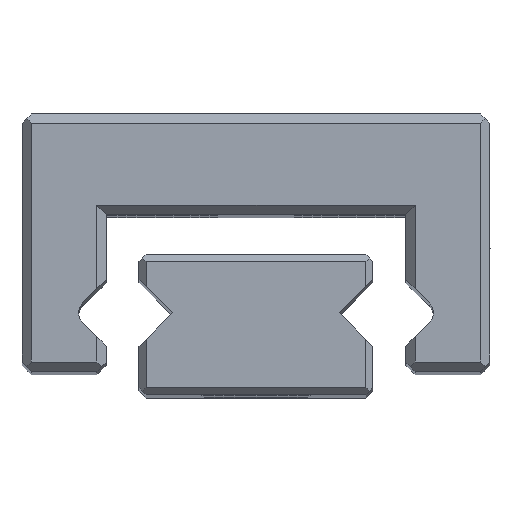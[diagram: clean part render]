
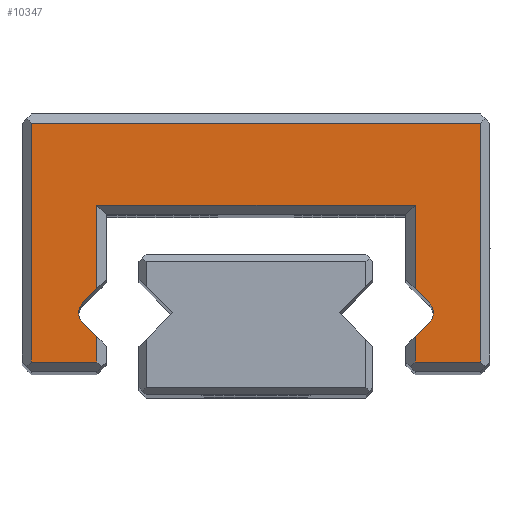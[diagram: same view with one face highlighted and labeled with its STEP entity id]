
A CAD part, top view. The second image highlights one B-rep face of the part: STEP entity #10347.
In plain terms, the highlighted planar face has unit normal (0, 0, 1).
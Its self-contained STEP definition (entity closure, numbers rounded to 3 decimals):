
#343 = LINE ( 'NONE', #351, #9334 ) ;
#346 = LINE ( 'NONE', #354, #9333 ) ;
#351 = CARTESIAN_POINT ( 'NONE',  ( 3.4, 1.96, 20. ) ) ;
#353 = DIRECTION ( 'NONE',  ( 0., -1., 0. ) ) ;
#354 = CARTESIAN_POINT ( 'NONE',  ( 3.2, 3.55, 20. ) ) ;
#355 = DIRECTION ( 'NONE',  ( 1., 0., 0. ) ) ;
#356 = LINE ( 'NONE', #357, #9331 ) ;
#357 = CARTESIAN_POINT ( 'NONE',  ( -3.4, 3.35, 20. ) ) ;
#358 = DIRECTION ( 'NONE',  ( 0., 1., 0. ) ) ;
#359 = LINE ( 'NONE', #360, #9330 ) ;
#360 = CARTESIAN_POINT ( 'NONE',  ( -3.4, 0.54, 20. ) ) ;
#361 = DIRECTION ( 'NONE',  ( 0., 1., 0. ) ) ;
#362 = LINE ( 'NONE', #363, #9329 ) ;
#363 = CARTESIAN_POINT ( 'NONE',  ( -3.4, 0.2, 20. ) ) ;
#364 = DIRECTION ( 'NONE',  ( 1., 0., 0. ) ) ;
#365 = LINE ( 'NONE', #366, #9328 ) ;
#366 = CARTESIAN_POINT ( 'NONE',  ( -4.8, 0.2, 20. ) ) ;
#367 = DIRECTION ( 'NONE',  ( 0., -1., 0. ) ) ;
#368 = LINE ( 'NONE', #369, #9327 ) ;
#369 = CARTESIAN_POINT ( 'NONE',  ( -4.8, 5.3, 20. ) ) ;
#370 = DIRECTION ( 'NONE',  ( -1., 0., 0. ) ) ;
#371 = LINE ( 'NONE', #372, #9326 ) ;
#372 = CARTESIAN_POINT ( 'NONE',  ( 4.8, 5.3, 20. ) ) ;
#373 = DIRECTION ( 'NONE',  ( 0., 1., 0. ) ) ;
#374 = LINE ( 'NONE', #375, #9325 ) ;
#375 = CARTESIAN_POINT ( 'NONE',  ( 4.8, 0.2, 20. ) ) ;
#376 = DIRECTION ( 'NONE',  ( 1., 0., 0. ) ) ;
#377 = LINE ( 'NONE', #378, #9324 ) ;
#378 = CARTESIAN_POINT ( 'NONE',  ( 3.4, 0.2, 20. ) ) ;
#379 = DIRECTION ( 'NONE',  ( 0., -1., 0. ) ) ;
#449 = LINE ( 'NONE', #450, #9810 ) ;
#450 = CARTESIAN_POINT ( 'NONE',  ( 3.2, 0.54, 20. ) ) ;
#451 = DIRECTION ( 'NONE',  ( -0.71, -0.704, 0. ) ) ;
#465 = CARTESIAN_POINT ( 'NONE',  ( 3.49, 1.25, 20. ) ) ;
#466 = DIRECTION ( 'NONE',  ( 0., 0., -1. ) ) ;
#467 = DIRECTION ( 'NONE',  ( -1., 0., 0. ) ) ;
#469 = LINE ( 'NONE', #477, #9787 ) ;
#477 = CARTESIAN_POINT ( 'NONE',  ( 3.701, 1.463, 20. ) ) ;
#478 = DIRECTION ( 'NONE',  ( 0.71, -0.704, 0. ) ) ;
#1524 = EDGE_LOOP ( 'NONE', ( #8317, #8316, #8315, #8314, #8313, #8312, #8311, #8310, #8309, #8308, #8307, #8306, #8305, #8304, #8303, #8302, #8301 ) ) ;
#1657 = VERTEX_POINT ( 'NONE', #11689 ) ;
#1729 = VERTEX_POINT ( 'NONE', #11761 ) ;
#3212 = LINE ( 'NONE', #3213, #6894 ) ;
#3213 = CARTESIAN_POINT ( 'NONE',  ( -3.701, 1.463, 20. ) ) ;
#3214 = DIRECTION ( 'NONE',  ( 0.71, 0.704, 0. ) ) ;
#3232 = LINE ( 'NONE', #3238, #6911 ) ;
#3233 = CARTESIAN_POINT ( 'NONE',  ( -3.49, 1.25, 20. ) ) ;
#3234 = DIRECTION ( 'NONE',  ( 0., 0., -1. ) ) ;
#3235 = DIRECTION ( 'NONE',  ( 1., 0., 0. ) ) ;
#3238 = CARTESIAN_POINT ( 'NONE',  ( -3.2, 0.54, 20. ) ) ;
#3239 = DIRECTION ( 'NONE',  ( -0.71, 0.704, 0. ) ) ;
#4887 = AXIS2_PLACEMENT_3D ( 'NONE', #5370, #5376, #5377 ) ;
#5368 = PLANE ( 'NONE',  #4887 ) ;
#5370 = CARTESIAN_POINT ( 'NONE',  ( -3.49, 1.25, 20. ) ) ;
#5374 = FACE_OUTER_BOUND ( 'NONE', #1524, .T. ) ;
#5376 = DIRECTION ( 'NONE',  ( 0., 0., 1. ) ) ;
#5377 = DIRECTION ( 'NONE',  ( 1., 0., 0. ) ) ;
#5428 = CARTESIAN_POINT ( 'NONE',  ( -3.4, 0.738, 20. ) ) ;
#5430 = CARTESIAN_POINT ( 'NONE',  ( 4.8, 5.3, 20. ) ) ;
#5441 = CARTESIAN_POINT ( 'NONE',  ( 3.701, 1.463, 20. ) ) ;
#5443 = CARTESIAN_POINT ( 'NONE',  ( -3.701, 1.037, 20. ) ) ;
#5448 = CARTESIAN_POINT ( 'NONE',  ( -3.4, 3.55, 20. ) ) ;
#5450 = CARTESIAN_POINT ( 'NONE',  ( 4.8, 0.2, 20. ) ) ;
#5455 = CARTESIAN_POINT ( 'NONE',  ( -3.4, 1.762, 20. ) ) ;
#5471 = CARTESIAN_POINT ( 'NONE',  ( -4.8, 0.2, 20. ) ) ;
#5478 = CARTESIAN_POINT ( 'NONE',  ( 3.701, 1.037, 20. ) ) ;
#5488 = CARTESIAN_POINT ( 'NONE',  ( -3.4, 0.2, 20. ) ) ;
#5493 = CARTESIAN_POINT ( 'NONE',  ( 3.4, 1.762, 20. ) ) ;
#5496 = CARTESIAN_POINT ( 'NONE',  ( -4.8, 5.3, 20. ) ) ;
#5500 = CARTESIAN_POINT ( 'NONE',  ( 3.4, 0.2, 20. ) ) ;
#5503 = CARTESIAN_POINT ( 'NONE',  ( 3.4, 0.738, 20. ) ) ;
#5523 = CARTESIAN_POINT ( 'NONE',  ( 3.4, 3.55, 20. ) ) ;
#5710 = CARTESIAN_POINT ( 'NONE',  ( -3.49, 1.25, 20. ) ) ;
#5711 = DIRECTION ( 'NONE',  ( 0., 0., -1. ) ) ;
#5712 = DIRECTION ( 'NONE',  ( 1., 0., 0. ) ) ;
#6894 = VECTOR ( 'NONE', #3214, 1000. ) ;
#6898 = AXIS2_PLACEMENT_3D ( 'NONE', #3233, #3234, #3235 ) ;
#6911 = VECTOR ( 'NONE', #3239, 1000. ) ;
#6915 = CIRCLE ( 'NONE', #6898, 0.3 ) ;
#6967 = CIRCLE ( 'NONE', #6969, 0.3 ) ;
#6969 = AXIS2_PLACEMENT_3D ( 'NONE', #5710, #5711, #5712 ) ;
#8301 = ORIENTED_EDGE ( 'NONE', *, *, #9898, .T. ) ;
#8302 = ORIENTED_EDGE ( 'NONE', *, *, #9902, .T. ) ;
#8303 = ORIENTED_EDGE ( 'NONE', *, *, #9860, .T. ) ;
#8304 = ORIENTED_EDGE ( 'NONE', *, *, #9861, .T. ) ;
#8305 = ORIENTED_EDGE ( 'NONE', *, *, #9862, .T. ) ;
#8306 = ORIENTED_EDGE ( 'NONE', *, *, #9911, .T. ) ;
#8307 = ORIENTED_EDGE ( 'NONE', *, *, #10732, .T. ) ;
#8308 = ORIENTED_EDGE ( 'NONE', *, *, #9917, .T. ) ;
#8309 = ORIENTED_EDGE ( 'NONE', *, *, #9919, .T. ) ;
#8310 = ORIENTED_EDGE ( 'NONE', *, *, #9863, .T. ) ;
#8311 = ORIENTED_EDGE ( 'NONE', *, *, #9864, .T. ) ;
#8312 = ORIENTED_EDGE ( 'NONE', *, *, #9865, .T. ) ;
#8313 = ORIENTED_EDGE ( 'NONE', *, *, #9866, .T. ) ;
#8314 = ORIENTED_EDGE ( 'NONE', *, *, #9867, .T. ) ;
#8315 = ORIENTED_EDGE ( 'NONE', *, *, #9868, .T. ) ;
#8316 = ORIENTED_EDGE ( 'NONE', *, *, #9869, .T. ) ;
#8317 = ORIENTED_EDGE ( 'NONE', *, *, #9893, .T. ) ;
#9324 = VECTOR ( 'NONE', #379, 1000. ) ;
#9325 = VECTOR ( 'NONE', #376, 1000. ) ;
#9326 = VECTOR ( 'NONE', #373, 1000. ) ;
#9327 = VECTOR ( 'NONE', #370, 1000. ) ;
#9328 = VECTOR ( 'NONE', #367, 1000. ) ;
#9329 = VECTOR ( 'NONE', #364, 1000. ) ;
#9330 = VECTOR ( 'NONE', #361, 1000. ) ;
#9331 = VECTOR ( 'NONE', #358, 1000. ) ;
#9333 = VECTOR ( 'NONE', #355, 1000. ) ;
#9334 = VECTOR ( 'NONE', #353, 1000. ) ;
#9787 = VECTOR ( 'NONE', #478, 1000. ) ;
#9788 = CIRCLE ( 'NONE', #9794, 0.3 ) ;
#9794 = AXIS2_PLACEMENT_3D ( 'NONE', #465, #466, #467 ) ;
#9810 = VECTOR ( 'NONE', #451, 1000. ) ;
#9860 = EDGE_CURVE ( 'NONE', #10485, #10455, #343, .T. ) ;
#9861 = EDGE_CURVE ( 'NONE', #10410, #10485, #346, .T. ) ;
#9862 = EDGE_CURVE ( 'NONE', #10417, #10410, #356, .T. ) ;
#9863 = EDGE_CURVE ( 'NONE', #10450, #10387, #359, .T. ) ;
#9864 = EDGE_CURVE ( 'NONE', #10433, #10450, #362, .T. ) ;
#9865 = EDGE_CURVE ( 'NONE', #10458, #10433, #365, .T. ) ;
#9866 = EDGE_CURVE ( 'NONE', #10390, #10458, #368, .T. ) ;
#9867 = EDGE_CURVE ( 'NONE', #10412, #10390, #371, .T. ) ;
#9868 = EDGE_CURVE ( 'NONE', #10462, #10412, #374, .T. ) ;
#9869 = EDGE_CURVE ( 'NONE', #10465, #10462, #377, .T. ) ;
#9893 = EDGE_CURVE ( 'NONE', #10440, #10465, #449, .T. ) ;
#9898 = EDGE_CURVE ( 'NONE', #10403, #10440, #9788, .T. ) ;
#9902 = EDGE_CURVE ( 'NONE', #10455, #10403, #469, .T. ) ;
#9911 = EDGE_CURVE ( 'NONE', #1729, #10417, #3212, .T. ) ;
#9917 = EDGE_CURVE ( 'NONE', #10405, #1657, #6915, .T. ) ;
#9919 = EDGE_CURVE ( 'NONE', #10387, #10405, #3232, .T. ) ;
#10347 = ADVANCED_FACE ( 'NONE', ( #5374 ), #5368, .T. ) ;
#10387 = VERTEX_POINT ( 'NONE', #5428 ) ;
#10390 = VERTEX_POINT ( 'NONE', #5430 ) ;
#10403 = VERTEX_POINT ( 'NONE', #5441 ) ;
#10405 = VERTEX_POINT ( 'NONE', #5443 ) ;
#10410 = VERTEX_POINT ( 'NONE', #5448 ) ;
#10412 = VERTEX_POINT ( 'NONE', #5450 ) ;
#10417 = VERTEX_POINT ( 'NONE', #5455 ) ;
#10433 = VERTEX_POINT ( 'NONE', #5471 ) ;
#10440 = VERTEX_POINT ( 'NONE', #5478 ) ;
#10450 = VERTEX_POINT ( 'NONE', #5488 ) ;
#10455 = VERTEX_POINT ( 'NONE', #5493 ) ;
#10458 = VERTEX_POINT ( 'NONE', #5496 ) ;
#10462 = VERTEX_POINT ( 'NONE', #5500 ) ;
#10465 = VERTEX_POINT ( 'NONE', #5503 ) ;
#10485 = VERTEX_POINT ( 'NONE', #5523 ) ;
#10732 = EDGE_CURVE ( 'NONE', #1657, #1729, #6967, .T. ) ;
#11689 = CARTESIAN_POINT ( 'NONE',  ( -3.79, 1.25, 20. ) ) ;
#11761 = CARTESIAN_POINT ( 'NONE',  ( -3.701, 1.463, 20. ) ) ;
